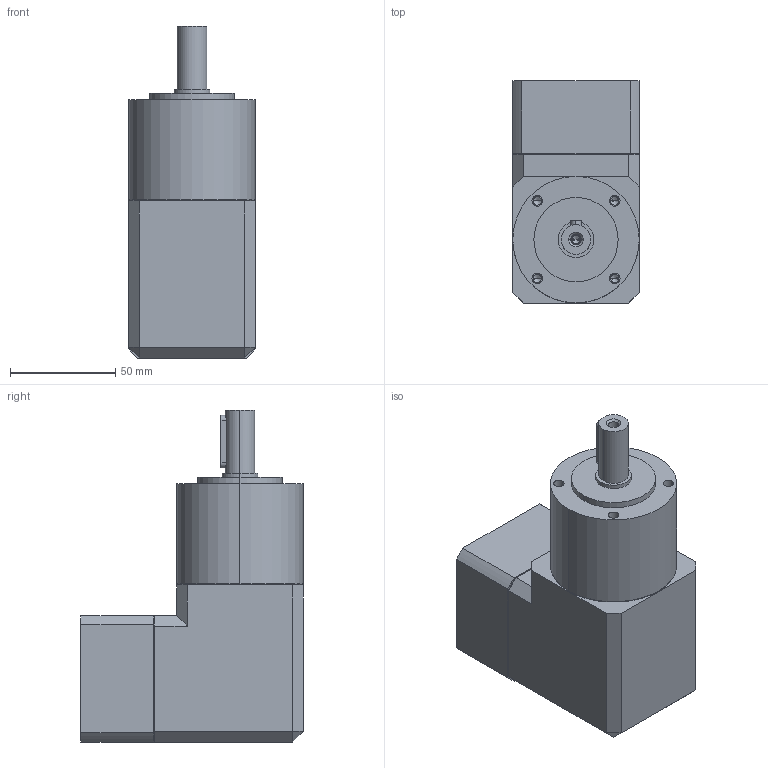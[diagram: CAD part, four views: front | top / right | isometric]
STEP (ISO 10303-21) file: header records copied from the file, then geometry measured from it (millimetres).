
FILE_DESCRIPTION (( 'STEP AP203' ), '1' );
FILE_NAME ('WPL60L1.STEP', '2014-12-04T02:58:49', ( 'User' ), ( 'china' ), 'SwSTEP 2.0', 'SolidWorks 2014', '' );
FILE_SCHEMA (( 'CONFIG_CONTROL_DESIGN' ));
Length unit declared in the file: millimetre
Products named in the file (1): WPL60L1
Bounding box: 60 x 105.5 x 157.5 mm (x, y, z)
Volume: 557291.5 mm3; surface area: 48786.3 mm2
Topology: 1 solids, 1 shells, 127 faces, 286 edges, 169 vertices
Faces by surface type: cylinder 63, plane 42, cone 20, torus 2
Entity records: 3537 total; most frequent: CARTESIAN_POINT 652, DIRECTION 626, ORIENTED_EDGE 536, EDGE_CURVE 268, AXIS2_PLACEMENT_3D 241, VERTEX_POINT 169, EDGE_LOOP 153, VECTOR 144
